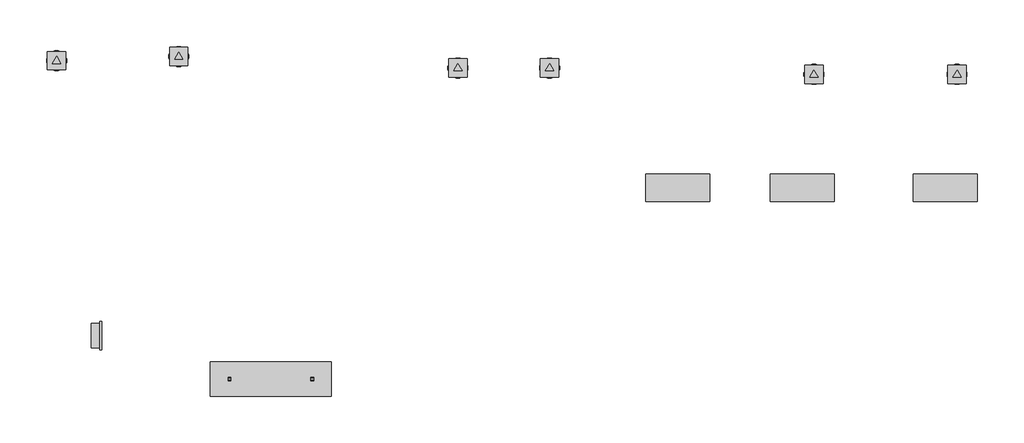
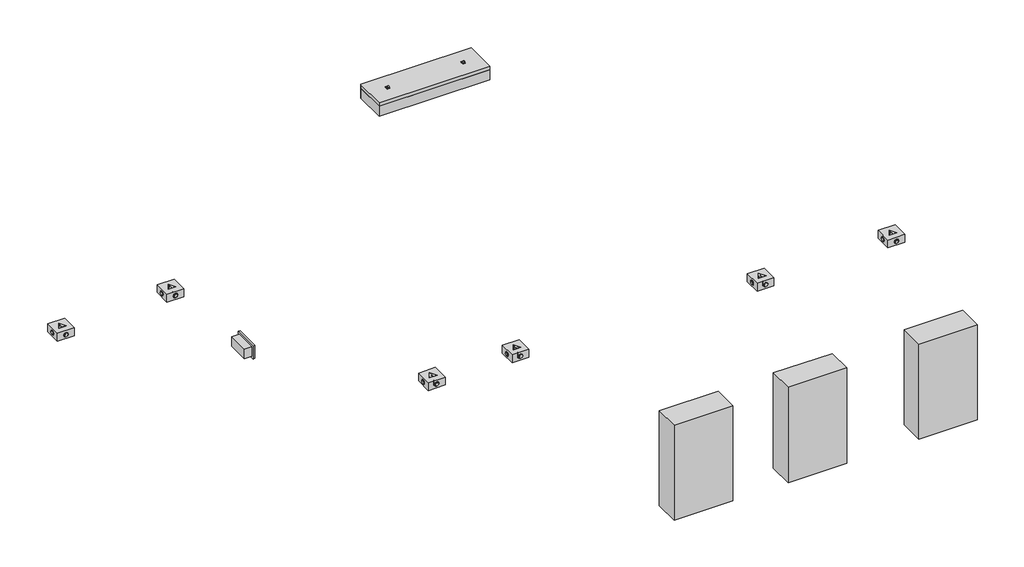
# One storey: 10 proxies, 1 light fixture.
"""IFC4 building model written with IfcOpenShell, lengths in millimetres."""

from ifc_helpers import new_model, si_unit, origin, place, context, project, spatial, transform, mapped, element, save
from components import electrical_fixtures_f98252bb, electrical_equipment_5fdf8ca9, electrical_fixtures_ff56aada, light_fixture_827c025e

model = new_model("IFC4")

# Units and contexts
model_context = context("Model", 3, world=origin())
ifc_project = project(units=[si_unit("LENGTHUNIT", "METRE", prefix="MILLI")], contexts=[model_context])

# Site, building, storey
site = spatial("IfcSite", under=ifc_project)
building = spatial("IfcBuilding", under=site)
storey = spatial("IfcBuildingStorey", under=building, Name="Уровень 2", Elevation=4000.0)

# Proxies
placement = place(None, origin())
electrical_fixtures_shape = electrical_fixtures_f98252bb(model_context)
element("IfcBuildingElementProxy", 1, Name="ADSK_Розетка_Встраиваемая : Двухгнездовая 1P+N+PE, IP20, 16А, 230В", ObjectType="ADSK_Розетка_Встраиваемая : Двухгнездовая 1P+N+PE, IP20, 16А, 230В", at=placement, inside=storey, context=model_context, shape_type="MappedRepresentation", body=[
    mapped(electrical_fixtures_shape, transform((12300.2726085, 1092.3661741, 3430.7658847), x_axis=(0.0, -1.0, 0.0), y_axis=(1.0, 0.0, 0.0), z_axis=(0.0, 0.0, 1.0))),
])
electrical_equipment_shape = electrical_equipment_5fdf8ca9(model_context)
element("IfcBuildingElementProxy", 2, Name="ADSK_Устройство распределения электроэнегрии_Встраиваемое : Ящик с аппаратурой 400В", ObjectType="ADSK_Устройство распределения электроэнегрии_Встраиваемое : Ящик с аппаратурой 400В", at=placement, inside=storey, context=model_context, shape_type="MappedRepresentation", body=[
    mapped(electrical_equipment_shape, transform((15453.4545975, 1974.6076418, 1440.1066681), x_axis=(1.0, 0.0, 0.0), y_axis=(0.0, 1.0, 0.0), z_axis=(0.0, 0.0, 1.0))),
])
electrical_fixtures_2_shape = electrical_fixtures_ff56aada(model_context)
element("IfcBuildingElementProxy", 3, Name="mS_EF_НГ_координация_электроприбор : mS_EF_НГ_координация_электроприбор", ObjectType="mS_EF_НГ_координация_электроприбор : mS_EF_НГ_координация_электроприбор", at=placement, inside=storey, context=model_context, shape_type="MappedRepresentation", body=[
    mapped(electrical_fixtures_2_shape, transform((14254.5457745, 2553.7542332, 1647.5487561), x_axis=(1.0, 0.0, 0.0), y_axis=(0.0, 1.0, 0.0), z_axis=(0.0, 0.0, 1.0))),
])
element("IfcBuildingElementProxy", 4, Name="mS_EF_НГ_координация_электроприбор : mS_EF_НГ_координация_электроприбор", ObjectType="mS_EF_НГ_координация_электроприбор : mS_EF_НГ_координация_электроприбор", at=placement, inside=storey, context=model_context, shape_type="MappedRepresentation", body=[
    mapped(electrical_fixtures_2_shape, transform((16196.9279016, 2519.6744616, 1614.3367603), x_axis=(1.0, 0.0, 0.0), y_axis=(0.0, 1.0, 0.0), z_axis=(0.0, 0.0, 1.0))),
])
element("IfcBuildingElementProxy", 5, Name="mS_EF_НГ_координация_электроприбор : mS_EF_НГ_координация_электроприбор", ObjectType="mS_EF_НГ_координация_электроприбор : mS_EF_НГ_координация_электроприбор", at=placement, inside=storey, context=model_context, shape_type="MappedRepresentation", body=[
    mapped(electrical_fixtures_2_shape, transform((14754.5457745, 2553.7542332, 1647.5487561), x_axis=(1.0, 0.0, 0.0), y_axis=(0.0, 1.0, 0.0), z_axis=(0.0, 0.0, 1.0))),
])
element("IfcBuildingElementProxy", 6, Name="mS_EF_НГ_координация_электроприбор : mS_EF_НГ_координация_электроприбор", ObjectType="mS_EF_НГ_координация_электроприбор : mS_EF_НГ_координация_электроприбор", at=placement, inside=storey, context=model_context, shape_type="MappedRepresentation", body=[
    mapped(electrical_fixtures_2_shape, transform((16976.9279016, 2519.6744616, 1614.3367603), x_axis=(1.0, 0.0, 0.0), y_axis=(0.0, 1.0, 0.0), z_axis=(0.0, 0.0, 1.0))),
])
element("IfcBuildingElementProxy", 7, Name="ADSK_Устройство распределения электроэнегрии_Встраиваемое : Ящик с аппаратурой 230В", ObjectType="ADSK_Устройство распределения электроэнегрии_Встраиваемое : Ящик с аппаратурой 230В", at=placement, inside=storey, context=model_context, shape_type="MappedRepresentation", body=[
    mapped(electrical_equipment_shape, transform((16133.4545975, 1974.6076418, 1440.1066681), x_axis=(1.0, 0.0, 0.0), y_axis=(0.0, 1.0, 0.0), z_axis=(0.0, 0.0, 1.0))),
])
element("IfcBuildingElementProxy", 8, Name="ADSK_Устройство распределения электроэнегрии_Встраиваемое : Ящик с аппаратурой 400В", ObjectType="ADSK_Устройство распределения электроэнегрии_Встраиваемое : Ящик с аппаратурой 400В", at=placement, inside=storey, context=model_context, shape_type="MappedRepresentation", body=[
    mapped(electrical_equipment_shape, transform((16913.4545975, 1974.6076418, 1440.1066681), x_axis=(1.0, 0.0, 0.0), y_axis=(0.0, 1.0, 0.0), z_axis=(0.0, 0.0, 1.0))),
])
element("IfcBuildingElementProxy", 9, Name="mS_EF_НГ_электроприбор : mS_EF_НГ_электроприбор", ObjectType="mS_EF_НГ_электроприбор : mS_EF_НГ_электроприбор", at=placement, inside=storey, context=model_context, shape_type="MappedRepresentation", body=[
    mapped(electrical_fixtures_2_shape, transform((12065.7772782, 2593.8081417, 2700.0), x_axis=(1.0, 0.0, 0.0), y_axis=(0.0, 1.0, 0.0), z_axis=(0.0, 0.0, 1.0))),
])
element("IfcBuildingElementProxy", 10, Name="mS_EF_НГ_электроприбор : mS_EF_НГ_электроприбор", ObjectType="mS_EF_НГ_электроприбор : mS_EF_НГ_электроприбор", at=placement, inside=storey, context=model_context, shape_type="MappedRepresentation", body=[
    mapped(electrical_fixtures_2_shape, transform((12732.4433131, 2616.8081417, 2700.0), x_axis=(1.0, 0.0, 0.0), y_axis=(0.0, 1.0, 0.0), z_axis=(0.0, 0.0, 1.0))),
])

# Light fixture
light_fixture_shape = light_fixture_827c025e(model_context)
element("IfcLightFixture", 11, ObjectType="ДПО46 Contur F : ДПО46-19-801", at=placement, inside=storey, context=model_context, shape_type="MappedRepresentation", body=[
    mapped(light_fixture_shape, transform((13235.0, 855.0, 4950.0), x_axis=(1.0, 0.0, 0.0), y_axis=(0.0, 1.0, 0.0), z_axis=(0.0, 0.0, 1.0))),
])

save(model, "model.ifc")
